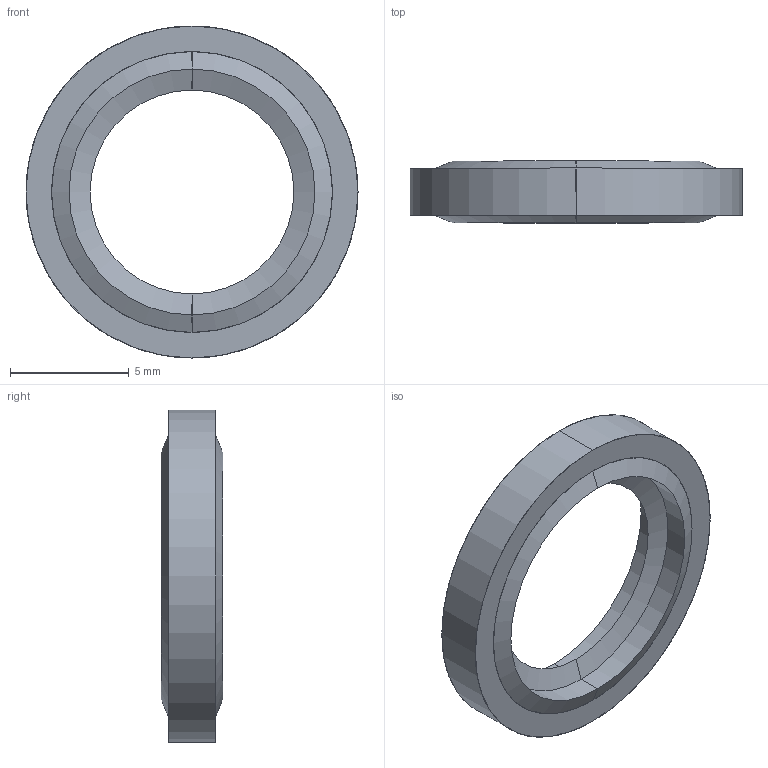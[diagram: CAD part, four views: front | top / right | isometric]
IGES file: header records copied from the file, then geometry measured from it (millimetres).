
Start section: SolidWorks IGES file using analytic representation for surfaces
Global section: file name: K:\Disegni Esecutivi\SERIE 1000\1613\1613_IGS\0161300001A.IGS; native system: SolidWorks 2016; preprocessor: SolidWorks 2016; author: cad05; date: 161104.092950; units: millimetre
Bounding box: 14 x 2.6 x 14 mm (x, y, z)
Surface area: 351.9 mm2 (no closed solid volume)
Topology: 0 solids, 0 shells, 16 faces, 184 edges, 184 vertices
Faces by surface type: revolution 14, bspline 2
